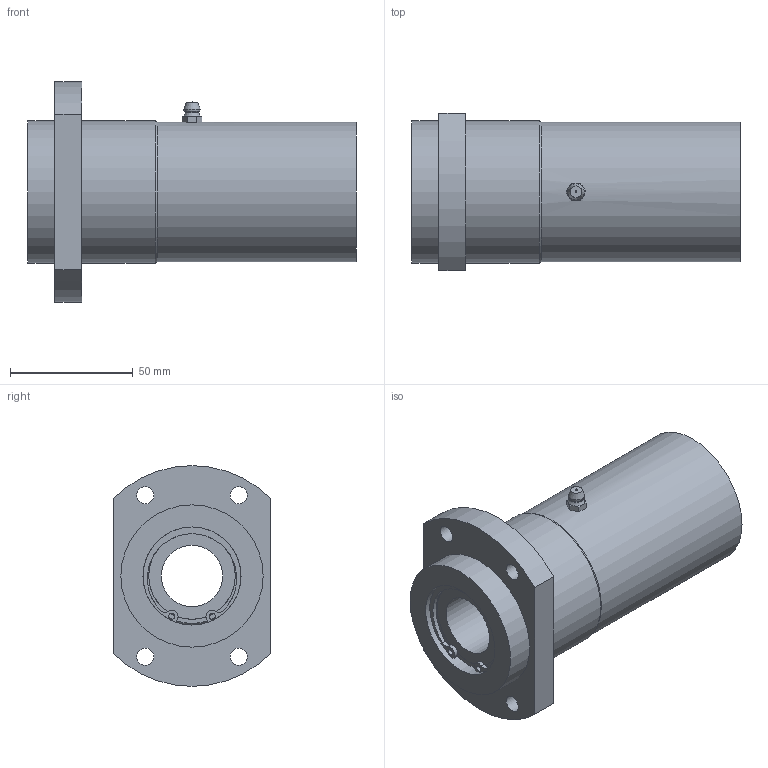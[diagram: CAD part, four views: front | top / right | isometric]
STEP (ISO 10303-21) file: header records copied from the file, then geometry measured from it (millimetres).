
FILE_DESCRIPTION((''),'2;1');
FILE_NAME('D:\製品 (図面)\カタログ用3D\リニアベアリング関連(改)\STEP形式\LFWB\LFWB25.stp','2010-01-22T16:27:44',('Tsuchiya'),(''),'Autodesk Inventor 10','Autodesk Inventor 10','');
FILE_SCHEMA(('AUTOMOTIVE_DESIGN { 1 0 10303 214 1 1 1 1 }'));
Length unit declared in the file: millimetre
Products named in the file (1): LFWB25
Bounding box: 134 x 64 x 90 mm (x, y, z)
Volume: 300900.9 mm3; surface area: 52910 mm2
Topology: 1 solids, 7 shells, 112 faces, 278 edges, 171 vertices
Faces by surface type: bspline 36, plane 34, cylinder 30, cone 8, sphere 2, torus 2
Full cylindrical faces by diameter (mm): 2.5 x2, 7 x4, 25 x2, 35.3 x2, 38 x2, 40 x8, 57 x1, 58 x2
Entity records: 3353 total; most frequent: CARTESIAN_POINT 927, DIRECTION 518, ORIENTED_EDGE 432, AXIS2_PLACEMENT_3D 237, EDGE_CURVE 216, EDGE_LOOP 188, CIRCLE 156, VERTEX_POINT 152
